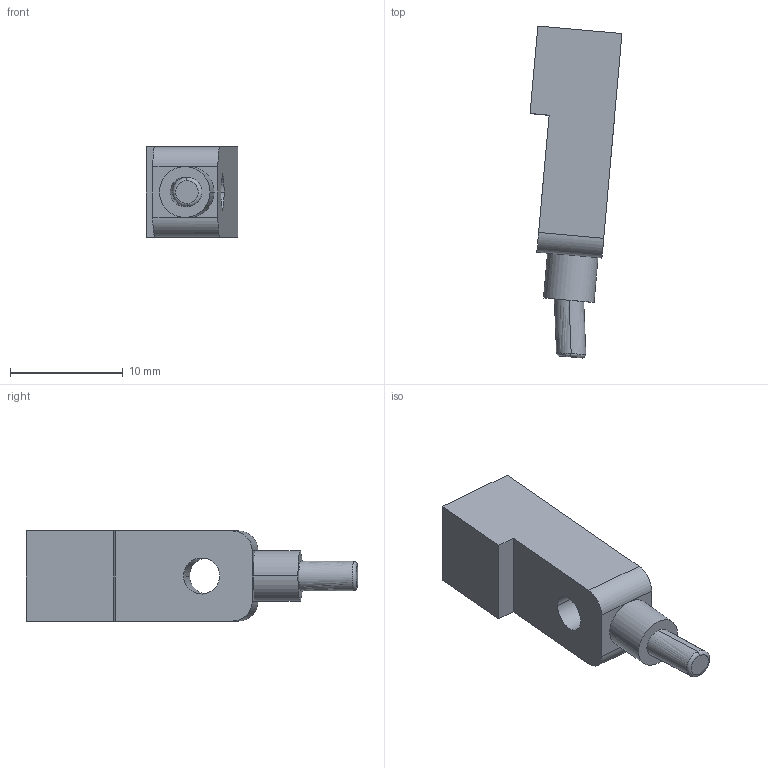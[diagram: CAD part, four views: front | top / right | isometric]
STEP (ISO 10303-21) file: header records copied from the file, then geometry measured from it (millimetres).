
FILE_DESCRIPTION (( 'STEP AP203' ), '1' );
FILE_NAME ('MAP-8S2P1F接近传感器.STEP', '2024-10-10T09:06:10', ( '微软用户' ), ( '微软中国' ), 'SwSTEP 2.0', 'SolidWorks 2018', '' );
FILE_SCHEMA (( 'CONFIG_CONTROL_DESIGN' ));
Length unit declared in the file: millimetre
Products named in the file (1): MAP-8S2P1F諉輪換覜ん
Bounding box: 8.16 x 29.47 x 8 mm (x, y, z)
Volume: 1070 mm3; surface area: 826 mm2
Topology: 1 solids, 1 shells, 21 faces, 52 edges, 34 vertices
Faces by surface type: bspline 8, plane 7, cylinder 6
Entity records: 1272 total; most frequent: CARTESIAN_POINT 753, ORIENTED_EDGE 104, DIRECTION 69, EDGE_CURVE 52, VERTEX_POINT 34, AXIS2_PLACEMENT_3D 26, EDGE_LOOP 24, FACE_OUTER_BOUND 21
